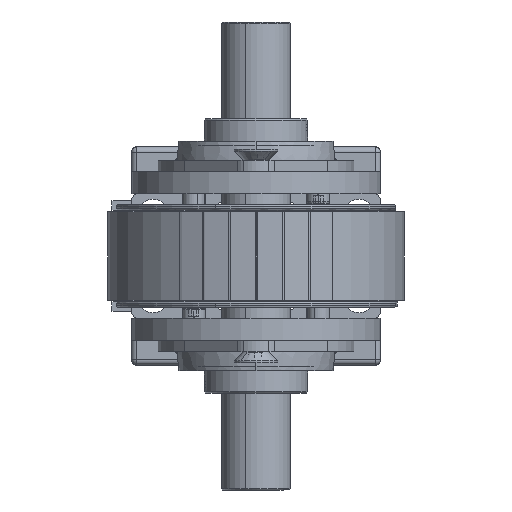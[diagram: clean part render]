
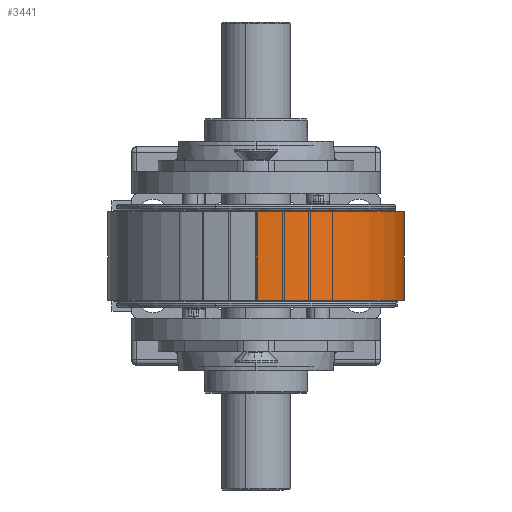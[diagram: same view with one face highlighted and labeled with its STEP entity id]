
A CAD part, left-side view. The second image highlights one B-rep face of the part: STEP entity #3441.
In plain terms, the highlighted cylindrical face has radius 53.5 mm (diameter 107 mm), a partial arc.
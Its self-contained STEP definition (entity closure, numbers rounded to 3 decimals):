
#1262 = VERTEX_POINT ( 'NONE', #47885 ) ;
#3379 = DIRECTION ( 'NONE',  ( -1., 0., 0. ) ) ;
#3441 = ADVANCED_FACE ( 'NONE', ( #67051 ), #103707, .T. ) ;
#11595 = DIRECTION ( 'NONE',  ( 0., 0., -1. ) ) ;
#11597 = VERTEX_POINT ( 'NONE', #40180 ) ;
#13257 = LINE ( 'NONE', #115337, #58511 ) ;
#16636 = VERTEX_POINT ( 'NONE', #69677 ) ;
#19468 = CARTESIAN_POINT ( 'NONE',  ( -748.5, 0., 0. ) ) ;
#21180 = DIRECTION ( 'NONE',  ( 0., -1., 0. ) ) ;
#22350 = DIRECTION ( 'NONE',  ( 0., 0., 1. ) ) ;
#31713 = CIRCLE ( 'NONE', #100734, 53.5 ) ;
#34441 = CARTESIAN_POINT ( 'NONE',  ( -695., -53.5, -16. ) ) ;
#36326 = EDGE_LOOP ( 'NONE', ( #103211, #95008, #94128, #40322 ) ) ;
#37355 = CARTESIAN_POINT ( 'NONE',  ( -695., 0., -16. ) ) ;
#38668 = LINE ( 'NONE', #19468, #105586 ) ;
#40180 = CARTESIAN_POINT ( 'NONE',  ( -748.5, 0., -16. ) ) ;
#40322 = ORIENTED_EDGE ( 'NONE', *, *, #85009, .T. ) ;
#44185 = EDGE_CURVE ( 'NONE', #74673, #11597, #31713, .T. ) ;
#46947 = CARTESIAN_POINT ( 'NONE',  ( -695., 0., 16. ) ) ;
#47885 = CARTESIAN_POINT ( 'NONE',  ( -695., -53.5, 16. ) ) ;
#48135 = EDGE_CURVE ( 'NONE', #16636, #11597, #38668, .T. ) ;
#58511 = VECTOR ( 'NONE', #22350, 1000. ) ;
#58800 = EDGE_CURVE ( 'NONE', #1262, #16636, #62973, .T. ) ;
#59830 = DIRECTION ( 'NONE',  ( 0., 0., -1. ) ) ;
#62973 = CIRCLE ( 'NONE', #91791, 53.5 ) ;
#67051 = FACE_OUTER_BOUND ( 'NONE', #36326, .T. ) ;
#68842 = CARTESIAN_POINT ( 'NONE',  ( -695., 0., 0. ) ) ;
#69677 = CARTESIAN_POINT ( 'NONE',  ( -748.5, 0., 16. ) ) ;
#70159 = AXIS2_PLACEMENT_3D ( 'NONE', #68842, #59830, #3379 ) ;
#74022 = DIRECTION ( 'NONE',  ( 0., 0., -1. ) ) ;
#74673 = VERTEX_POINT ( 'NONE', #34441 ) ;
#85009 = EDGE_CURVE ( 'NONE', #74673, #1262, #13257, .T. ) ;
#91791 = AXIS2_PLACEMENT_3D ( 'NONE', #46947, #93848, #21180 ) ;
#93848 = DIRECTION ( 'NONE',  ( 0., 0., -1. ) ) ;
#94128 = ORIENTED_EDGE ( 'NONE', *, *, #44185, .F. ) ;
#95008 = ORIENTED_EDGE ( 'NONE', *, *, #48135, .T. ) ;
#100734 = AXIS2_PLACEMENT_3D ( 'NONE', #37355, #74022, #110624 ) ;
#103211 = ORIENTED_EDGE ( 'NONE', *, *, #58800, .T. ) ;
#103707 = CYLINDRICAL_SURFACE ( 'NONE', #70159, 53.5 ) ;
#105586 = VECTOR ( 'NONE', #11595, 1000. ) ;
#110624 = DIRECTION ( 'NONE',  ( 0., -1., 0. ) ) ;
#115337 = CARTESIAN_POINT ( 'NONE',  ( -695., -53.5, 16. ) ) ;
